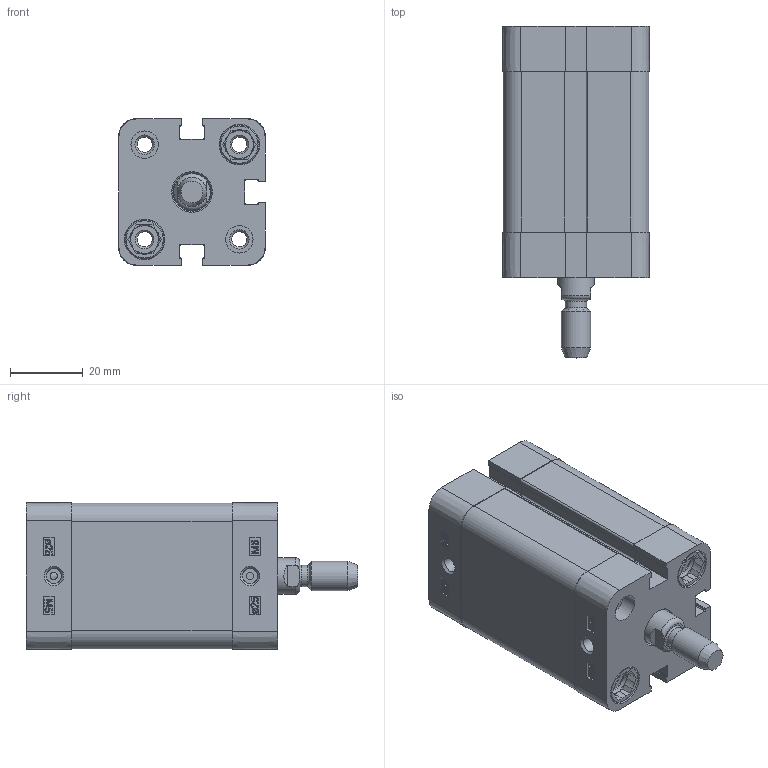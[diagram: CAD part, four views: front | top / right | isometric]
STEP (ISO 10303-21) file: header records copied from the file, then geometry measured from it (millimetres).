
FILE_DESCRIPTION((''),'2;1');
FILE_NAME('T:\Archivio Inventor\- CATALOGHI 2012\SERIE P - NUOVA\PDM\PDM025\PDM025.---.GS.M\PDM025.030.GS.M.stp','2013-01-31T08:06:14',('Administrator'),(''),'Autodesk Inventor 2012','Autodesk Inventor 2012','');
FILE_SCHEMA(('CONFIG_CONTROL_DESIGN'));
Length unit declared in the file: millimetre
Products named in the file (1): PDM025.030.GS.M
Bounding box: 40.3 x 91 x 40.3 mm (x, y, z)
Volume: 64540.4 mm3; surface area: 32118.7 mm2
Topology: 1 solids, 3 shells, 596 faces, 1552 edges, 1017 vertices
Faces by surface type: plane 312, cylinder 130, bspline 92, cone 50, torus 12
Full cylindrical faces by diameter (mm): 2 x2, 4.134 x10, 5.8 x1, 7.5 x4, 7.55 x2, 8 x9, 9 x1, 10 x1, 10.5 x1, 10.8 x4, 11.1 x4, 25 x1, 27.3 x1, 27.5 x1
Entity records: 18782 total; most frequent: CARTESIAN_POINT 4306, ORIENTED_EDGE 2888, DIRECTION 2606, EDGE_CURVE 1444, VERTEX_POINT 1002, VECTOR 898, LINE 898, AXIS2_PLACEMENT_3D 854
